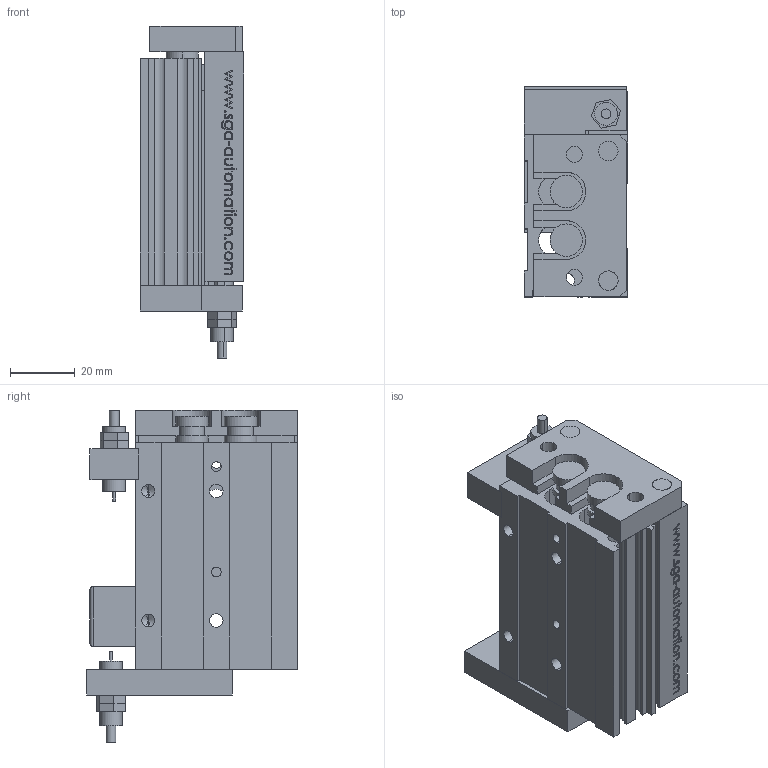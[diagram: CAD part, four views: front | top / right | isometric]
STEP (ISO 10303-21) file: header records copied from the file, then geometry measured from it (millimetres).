
FILE_DESCRIPTION (( 'STEP AP203' ), '1' );
FILE_NAME ('GDX 12-30.STEP', '2013-02-25T07:58:07', ( 'Conseil Régional Haute-Normandie' ), ( 'Conseil Régional Haute-Normandie' ), 'SwSTEP 2.0', 'SolidWorks 2010', '' );
FILE_SCHEMA (( 'CONFIG_CONTROL_DESIGN' ));
Length unit declared in the file: millimetre
Products named in the file (14): GDX12-30 Pièce7_Default; GDX12-10 Pièce 4; GDX25-10 Pièce9_Default; GDX25-10 Pièce8_Default; GDX 12-10 Pièce5_Default; GDX12-10 Pièce3_Default; GDX 12-30; GDX12-10 Pièce6_Default; GDX12-10 pièce 1; GDX12-10 Pièce 2; GDX25-10 Pièce11_Default; GDX25-10 Pièce12_Default; GDX25-10 Pièce13_Default; GDX25-10 Pièce14_Default
Assembly tree (27 placements, depth 2):
  GDX 12-30
    GDX25-10 Pièce13_Default  x8
    GDX25-10 Pièce11_Default  x2
    GDX25-10 Pièce14_Default  x2
    GDX12-10 Pièce 4
    GDX25-10 Pièce12_Default  x4
    GDX25-10 Pièce8_Default  x2
    GDX 12-10 Pièce5_Default  x2
    GDX25-10 Pièce9_Default
    GDX12-10 Pièce3_Default
    GDX12-10 Pièce6_Default
    GDX12-10 pièce 1
    GDX12-10 Pièce 2
    GDX12-30 Pièce7_Default
Bounding box: 32 x 65 x 102.51 mm (x, y, z)
Volume: 110603.8 mm3; surface area: 56401.8 mm2
Topology: 27 solids, 27 shells, 738 faces, 1876 edges, 1224 vertices
Faces by surface type: plane 389, cylinder 184, bspline 133, cone 28, torus 4
Entity records: 31118 total; most frequent: CARTESIAN_POINT 14620, ORIENTED_EDGE 3204, DIRECTION 2614, EDGE_CURVE 1602, VECTOR 1062, LINE 1062, VERTEX_POINT 1060, AXIS2_PLACEMENT_3D 776
